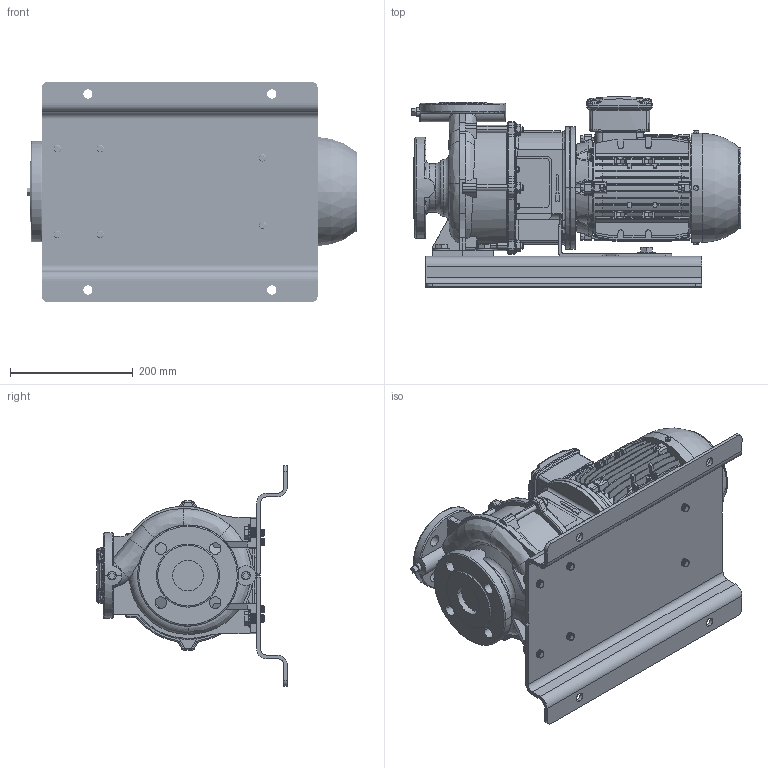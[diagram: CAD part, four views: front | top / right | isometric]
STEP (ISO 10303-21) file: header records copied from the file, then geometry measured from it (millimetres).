
FILE_DESCRIPTION (( 'STEP AP214' ), '1' );
FILE_NAME ('GSD2 32-125_1.5 & 2.2_(90SL)_W21_BP.STEP', '2024-03-14T01:50:55', ( '' ), ( '' ), 'SwSTEP 2.0', 'SolidWorks 2019', '' );
FILE_SCHEMA (( 'AUTOMOTIVE_DESIGN' ));
Length unit declared in the file: millimetre
Products named in the file (8): CGSD1-4113; N2S5 GSDA-251 F1-1832896-00; GSD2  32-125_1.5 & 2.2_(90SL)_W21_BP; Parametric bolt_SFT-A297B; Parametric Flat Washer_M12; 32-125-90S_L_______; 90S_L ALIE3_W21T_B5; Parametric bolt_SFT-A295B
Assembly tree (16 placements, depth 2):
  GSD2  32-125_1.5 & 2.2_(90SL)_W21_BP
    32-125-90S_L_______
    90S_L ALIE3_W21T_B5
    N2S5 GSDA-251 F1-1832896-00
    CGSD1-4113
    Parametric bolt_SFT-A295B  x2
    Parametric Flat Washer_M12  x6
    Parametric bolt_SFT-A297B  x4
Bounding box: 538.2 x 311 x 360 mm (x, y, z)
Volume: 12159664.1 mm3; surface area: 1402818.6 mm2
Topology: 16 solids, 20 shells, 3729 faces, 9786 edges, 6280 vertices
Faces by surface type: plane 1936, cylinder 1013, torus 304, bspline 256, cone 198, sphere 22
Entity records: 180592 total; most frequent: CARTESIAN_POINT 96023, ORIENTED_EDGE 18382, DIRECTION 16424, EDGE_CURVE 9191, VERTEX_POINT 5922, AXIS2_PLACEMENT_3D 5545, VECTOR 5334, LINE 5334
